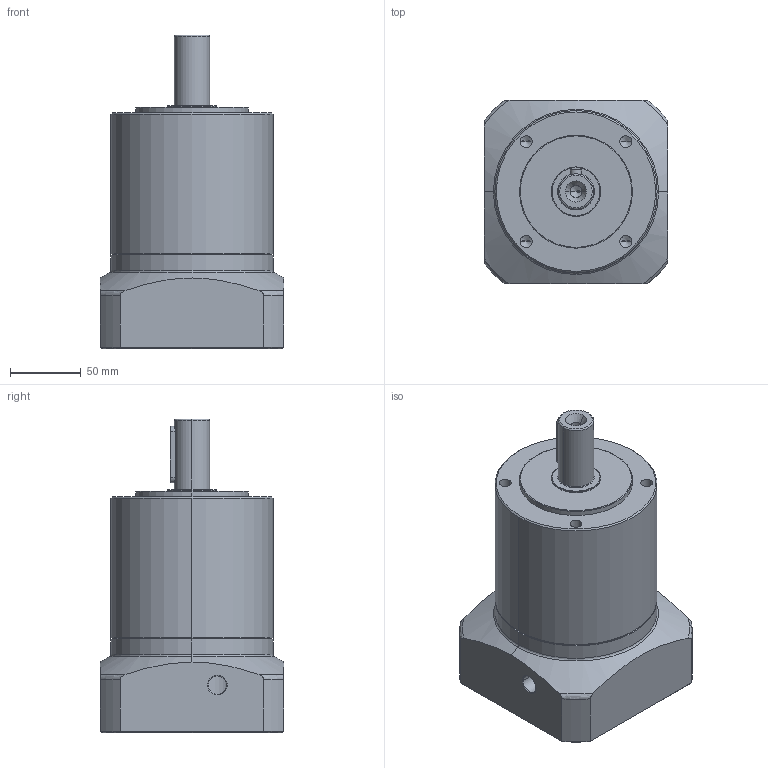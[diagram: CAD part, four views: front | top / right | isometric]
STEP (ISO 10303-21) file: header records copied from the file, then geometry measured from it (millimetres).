
FILE_DESCRIPTION (( 'STEP AP214' ), '1' );
FILE_NAME ('PL120-L2-22×55-110-145M8 三维零件图.STEP', '2021-08-06T06:25:07', ( 'XJJ' ), ( '' ), 'SwSTEP 2.0', 'SolidWorks 2016', '' );
FILE_SCHEMA (( 'AUTOMOTIVE_DESIGN' ));
Length unit declared in the file: millimetre
Products named in the file (3): hexagon socket head cap screws gb_GB_FASTENER_SCREWS_HSHCS M10X16-N; PL120-L2-22×60-110-145×M8 三维零件图; PL120-L2-22×55-110-145M8 三维零件图
Assembly tree (2 placements, depth 2):
  PL120-L2-22×55-110-145M8 三维零件图
    PL120-L2-22×60-110-145×M8 三维零件图
    hexagon socket head cap screws gb_GB_FASTENER_SCREWS_HSHCS M10X16-N
Bounding box: 130 x 130 x 222.2 mm (x, y, z)
Volume: 1850320.3 mm3; surface area: 130209.4 mm2
Topology: 2 solids, 2 shells, 181 faces, 422 edges, 246 vertices
Faces by surface type: cylinder 64, cone 48, plane 42, torus 27
Entity records: 5957 total; most frequent: CARTESIAN_POINT 1467, DIRECTION 940, ORIENTED_EDGE 804, EDGE_CURVE 402, AXIS2_PLACEMENT_3D 392, VERTEX_POINT 246, EDGE_LOOP 210, CIRCLE 206
